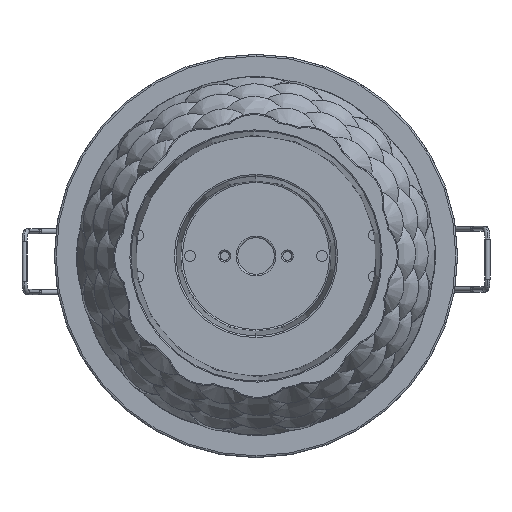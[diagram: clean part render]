
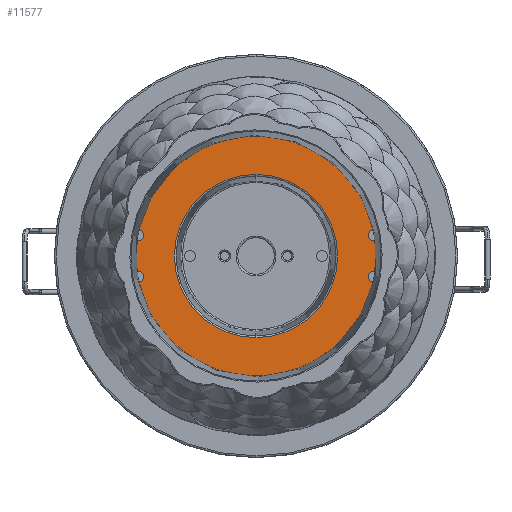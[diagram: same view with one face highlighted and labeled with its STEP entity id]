
A CAD part, front view. The second image highlights one B-rep face of the part: STEP entity #11577.
In plain terms, the highlighted planar face has unit normal (0, -1, 0).
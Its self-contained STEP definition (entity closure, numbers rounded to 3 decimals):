
#873 = CARTESIAN_POINT ( 'NONE',  ( 34., 19., 6. ) ) ;
#1080 = AXIS2_PLACEMENT_3D ( 'NONE', #21789, #29491, #23865 ) ;
#1181 = AXIS2_PLACEMENT_3D ( 'NONE', #22363, #10731, #34163 ) ;
#1199 = EDGE_CURVE ( 'NONE', #35216, #25184, #17310, .T. ) ;
#1246 = CARTESIAN_POINT ( 'NONE',  ( 0., 19., 42.75 ) ) ;
#1564 = ORIENTED_EDGE ( 'NONE', *, *, #31971, .T. ) ;
#1595 = ORIENTED_EDGE ( 'NONE', *, *, #24957, .T. ) ;
#1947 = DIRECTION ( 'NONE',  ( 0., 0., -1. ) ) ;
#2253 = EDGE_CURVE ( 'NONE', #35881, #2880, #8428, .T. ) ;
#2561 = DIRECTION ( 'NONE',  ( 0., 0., 1. ) ) ;
#2876 = DIRECTION ( 'NONE',  ( 0., 1., 0. ) ) ;
#2880 = VERTEX_POINT ( 'NONE', #1246 ) ;
#3296 = CIRCLE ( 'NONE', #10508, 23.487 ) ;
#3305 = AXIS2_PLACEMENT_3D ( 'NONE', #14831, #23460, #9357 ) ;
#3791 = CARTESIAN_POINT ( 'NONE',  ( -34., 19., 7.65 ) ) ;
#4262 = DIRECTION ( 'NONE',  ( 0., 0., 1. ) ) ;
#4341 = CARTESIAN_POINT ( 'NONE',  ( -34., 19., 4.35 ) ) ;
#4378 = AXIS2_PLACEMENT_3D ( 'NONE', #30434, #8288, #19745 ) ;
#4752 = CIRCLE ( 'NONE', #11341, 42.75 ) ;
#4979 = CARTESIAN_POINT ( 'NONE',  ( -34., 19., -7.65 ) ) ;
#5004 = ORIENTED_EDGE ( 'NONE', *, *, #12694, .T. ) ;
#5210 = DIRECTION ( 'NONE',  ( 0., 1., 0. ) ) ;
#5222 = AXIS2_PLACEMENT_3D ( 'NONE', #22849, #5210, #8579 ) ;
#5581 = DIRECTION ( 'NONE',  ( 0., 1., 0. ) ) ;
#6413 = CARTESIAN_POINT ( 'NONE',  ( -34., 19., 6. ) ) ;
#6529 = VERTEX_POINT ( 'NONE', #29735 ) ;
#7125 = AXIS2_PLACEMENT_3D ( 'NONE', #28970, #2876, #14348 ) ;
#7223 = CARTESIAN_POINT ( 'NONE',  ( 0., 19., 0. ) ) ;
#8151 = VERTEX_POINT ( 'NONE', #19206 ) ;
#8288 = DIRECTION ( 'NONE',  ( 0., -1., 0. ) ) ;
#8428 = CIRCLE ( 'NONE', #30580, 42.75 ) ;
#8579 = DIRECTION ( 'NONE',  ( 0., 0., 1. ) ) ;
#8949 = CARTESIAN_POINT ( 'NONE',  ( -34., 19., -6. ) ) ;
#9145 = VERTEX_POINT ( 'NONE', #30764 ) ;
#9357 = DIRECTION ( 'NONE',  ( 0., 0., 1. ) ) ;
#10172 = EDGE_LOOP ( 'NONE', ( #16671, #5004 ) ) ;
#10338 = DIRECTION ( 'NONE',  ( 0., 0., 1. ) ) ;
#10508 = AXIS2_PLACEMENT_3D ( 'NONE', #33412, #13712, #18980 ) ;
#10731 = DIRECTION ( 'NONE',  ( 0., 1., 0. ) ) ;
#10837 = AXIS2_PLACEMENT_3D ( 'NONE', #12912, #30164, #33168 ) ;
#11165 = VERTEX_POINT ( 'NONE', #32032 ) ;
#11341 = AXIS2_PLACEMENT_3D ( 'NONE', #7223, #13227, #1947 ) ;
#11347 = EDGE_CURVE ( 'NONE', #36124, #23490, #17324, .T. ) ;
#11577 = ADVANCED_FACE ( 'NONE', ( #16754, #16384, #33807, #36447, #25543, #16941 ), #19554, .T. ) ;
#12238 = EDGE_LOOP ( 'NONE', ( #22499, #33873 ) ) ;
#12694 = EDGE_CURVE ( 'NONE', #25184, #35216, #3296, .T. ) ;
#12912 = CARTESIAN_POINT ( 'NONE',  ( 34., 19., -6. ) ) ;
#13227 = DIRECTION ( 'NONE',  ( 0., -1., 0. ) ) ;
#13712 = DIRECTION ( 'NONE',  ( 0., 1., 0. ) ) ;
#13876 = ORIENTED_EDGE ( 'NONE', *, *, #15406, .T. ) ;
#14142 = ORIENTED_EDGE ( 'NONE', *, *, #21918, .T. ) ;
#14348 = DIRECTION ( 'NONE',  ( 0., 0., 1. ) ) ;
#14831 = CARTESIAN_POINT ( 'NONE',  ( -34., 19., -6. ) ) ;
#15406 = EDGE_CURVE ( 'NONE', #11165, #32492, #28813, .T. ) ;
#15446 = CIRCLE ( 'NONE', #32787, 1.65 ) ;
#15510 = CARTESIAN_POINT ( 'NONE',  ( 0., 19., 23.487 ) ) ;
#15571 = CIRCLE ( 'NONE', #22160, 1.65 ) ;
#16384 = FACE_BOUND ( 'NONE', #10172, .T. ) ;
#16671 = ORIENTED_EDGE ( 'NONE', *, *, #1199, .T. ) ;
#16754 = FACE_OUTER_BOUND ( 'NONE', #17364, .T. ) ;
#16941 = FACE_BOUND ( 'NONE', #33362, .T. ) ;
#17310 = CIRCLE ( 'NONE', #1080, 23.487 ) ;
#17324 = CIRCLE ( 'NONE', #7125, 1.65 ) ;
#17364 = EDGE_LOOP ( 'NONE', ( #26591, #20047 ) ) ;
#17409 = CIRCLE ( 'NONE', #1181, 1.65 ) ;
#17826 = CARTESIAN_POINT ( 'NONE',  ( 0., 19., -23.487 ) ) ;
#18059 = EDGE_CURVE ( 'NONE', #23490, #36124, #18497, .T. ) ;
#18384 = EDGE_CURVE ( 'NONE', #26279, #8151, #32654, .T. ) ;
#18497 = CIRCLE ( 'NONE', #24478, 1.65 ) ;
#18980 = DIRECTION ( 'NONE',  ( 0., 0., -1. ) ) ;
#19206 = CARTESIAN_POINT ( 'NONE',  ( -34., 19., -4.35 ) ) ;
#19554 = PLANE ( 'NONE',  #4378 ) ;
#19745 = DIRECTION ( 'NONE',  ( 0., 0., -1. ) ) ;
#20047 = ORIENTED_EDGE ( 'NONE', *, *, #29436, .T. ) ;
#20655 = ORIENTED_EDGE ( 'NONE', *, *, #18384, .T. ) ;
#21789 = CARTESIAN_POINT ( 'NONE',  ( 0., 19., 0. ) ) ;
#21918 = EDGE_CURVE ( 'NONE', #8151, #26279, #15446, .T. ) ;
#22160 = AXIS2_PLACEMENT_3D ( 'NONE', #873, #35588, #4262 ) ;
#22363 = CARTESIAN_POINT ( 'NONE',  ( 34., 19., -6. ) ) ;
#22499 = ORIENTED_EDGE ( 'NONE', *, *, #18059, .T. ) ;
#22849 = CARTESIAN_POINT ( 'NONE',  ( 34., 19., 6. ) ) ;
#23460 = DIRECTION ( 'NONE',  ( 0., 1., 0. ) ) ;
#23490 = VERTEX_POINT ( 'NONE', #3791 ) ;
#23865 = DIRECTION ( 'NONE',  ( 0., 0., -1. ) ) ;
#24068 = EDGE_LOOP ( 'NONE', ( #14142, #20655 ) ) ;
#24478 = AXIS2_PLACEMENT_3D ( 'NONE', #6413, #29304, #10338 ) ;
#24957 = EDGE_CURVE ( 'NONE', #9145, #6529, #30392, .T. ) ;
#25020 = CARTESIAN_POINT ( 'NONE',  ( 0., 19., -42.75 ) ) ;
#25184 = VERTEX_POINT ( 'NONE', #15510 ) ;
#25543 = FACE_BOUND ( 'NONE', #27813, .T. ) ;
#26279 = VERTEX_POINT ( 'NONE', #4979 ) ;
#26591 = ORIENTED_EDGE ( 'NONE', *, *, #2253, .T. ) ;
#27813 = EDGE_LOOP ( 'NONE', ( #13876, #1564 ) ) ;
#28159 = DIRECTION ( 'NONE',  ( 0., -1., 0. ) ) ;
#28518 = CARTESIAN_POINT ( 'NONE',  ( 0., 19., 0. ) ) ;
#28813 = CIRCLE ( 'NONE', #10837, 1.65 ) ;
#28970 = CARTESIAN_POINT ( 'NONE',  ( -34., 19., 6. ) ) ;
#29304 = DIRECTION ( 'NONE',  ( 0., 1., 0. ) ) ;
#29436 = EDGE_CURVE ( 'NONE', #2880, #35881, #4752, .T. ) ;
#29491 = DIRECTION ( 'NONE',  ( 0., 1., 0. ) ) ;
#29735 = CARTESIAN_POINT ( 'NONE',  ( 34., 19., 4.35 ) ) ;
#30164 = DIRECTION ( 'NONE',  ( 0., 1., 0. ) ) ;
#30392 = CIRCLE ( 'NONE', #5222, 1.65 ) ;
#30434 = CARTESIAN_POINT ( 'NONE',  ( 43.25, 19., 0. ) ) ;
#30482 = ORIENTED_EDGE ( 'NONE', *, *, #30815, .T. ) ;
#30580 = AXIS2_PLACEMENT_3D ( 'NONE', #28518, #28159, #30954 ) ;
#30764 = CARTESIAN_POINT ( 'NONE',  ( 34., 19., 7.65 ) ) ;
#30815 = EDGE_CURVE ( 'NONE', #6529, #9145, #15571, .T. ) ;
#30954 = DIRECTION ( 'NONE',  ( 0., 0., -1. ) ) ;
#31971 = EDGE_CURVE ( 'NONE', #32492, #11165, #17409, .T. ) ;
#32032 = CARTESIAN_POINT ( 'NONE',  ( 34., 19., -4.35 ) ) ;
#32492 = VERTEX_POINT ( 'NONE', #33849 ) ;
#32654 = CIRCLE ( 'NONE', #3305, 1.65 ) ;
#32787 = AXIS2_PLACEMENT_3D ( 'NONE', #8949, #5581, #2561 ) ;
#33168 = DIRECTION ( 'NONE',  ( 0., 0., 1. ) ) ;
#33362 = EDGE_LOOP ( 'NONE', ( #1595, #30482 ) ) ;
#33412 = CARTESIAN_POINT ( 'NONE',  ( 0., 19., 0. ) ) ;
#33807 = FACE_BOUND ( 'NONE', #24068, .T. ) ;
#33849 = CARTESIAN_POINT ( 'NONE',  ( 34., 19., -7.65 ) ) ;
#33873 = ORIENTED_EDGE ( 'NONE', *, *, #11347, .T. ) ;
#34163 = DIRECTION ( 'NONE',  ( 0., 0., 1. ) ) ;
#35216 = VERTEX_POINT ( 'NONE', #17826 ) ;
#35588 = DIRECTION ( 'NONE',  ( 0., 1., 0. ) ) ;
#35881 = VERTEX_POINT ( 'NONE', #25020 ) ;
#36124 = VERTEX_POINT ( 'NONE', #4341 ) ;
#36447 = FACE_BOUND ( 'NONE', #12238, .T. ) ;
